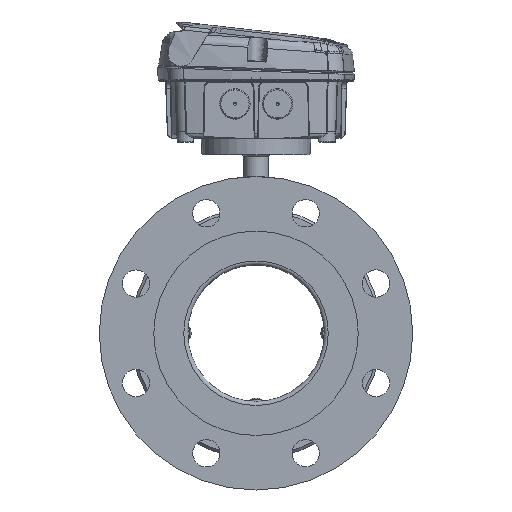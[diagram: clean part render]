
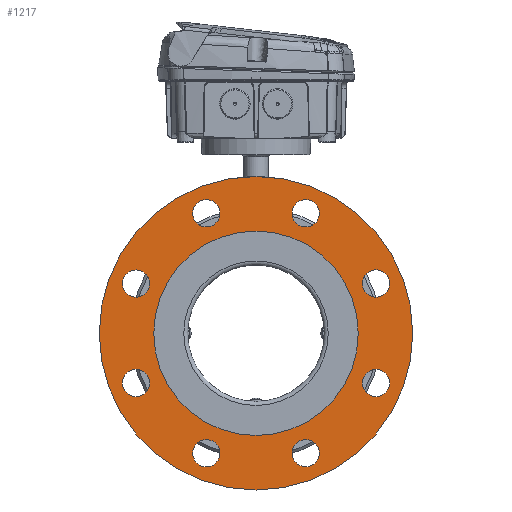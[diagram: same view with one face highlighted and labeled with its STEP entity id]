
A CAD part, left-side view. The second image highlights one B-rep face of the part: STEP entity #1217.
In plain terms, the highlighted planar face has unit normal (-1, 0, 0).
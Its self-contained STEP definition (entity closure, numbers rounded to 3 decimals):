
#262=CARTESIAN_POINT('',(-120.0,80.928,-43.522));
#263=VERTEX_POINT('',#262);
#264=CARTESIAN_POINT('',(-120.0,88.,-36.451));
#265=DIRECTION('',(1.0,0.0,0.0));
#266=DIRECTION('',(0.0,0.707,0.707));
#267=AXIS2_PLACEMENT_3D('',#264,#265,#266);
#268=CIRCLE('',#267,10.0);
#269=EDGE_CURVE('',#263,#263,#268,.T.);
#290=CARTESIAN_POINT('',(-120.0,26.451,-88.));
#291=VERTEX_POINT('',#290);
#292=CARTESIAN_POINT('',(-120.0,36.451,-88.));
#293=DIRECTION('',(1.0,0.0,0.0));
#294=DIRECTION('',(0.0,1.0,0.0));
#295=AXIS2_PLACEMENT_3D('',#292,#293,#294);
#296=CIRCLE('',#295,10.0);
#297=EDGE_CURVE('',#291,#291,#296,.T.);
#318=CARTESIAN_POINT('',(-120.0,-43.522,-80.928));
#319=VERTEX_POINT('',#318);
#320=CARTESIAN_POINT('',(-120.0,-36.451,-88.));
#321=DIRECTION('',(1.0,0.0,0.0));
#322=DIRECTION('',(0.0,0.707,-0.707));
#323=AXIS2_PLACEMENT_3D('',#320,#321,#322);
#324=CIRCLE('',#323,10.0);
#325=EDGE_CURVE('',#319,#319,#324,.T.);
#346=CARTESIAN_POINT('',(-120.0,-88.,-26.451));
#347=VERTEX_POINT('',#346);
#348=CARTESIAN_POINT('',(-120.0,-88.,-36.451));
#349=DIRECTION('',(1.0,0.0,0.0));
#350=DIRECTION('',(0.0,0.0,-1.0));
#351=AXIS2_PLACEMENT_3D('',#348,#349,#350);
#352=CIRCLE('',#351,10.0);
#353=EDGE_CURVE('',#347,#347,#352,.T.);
#374=CARTESIAN_POINT('',(-120.0,-80.928,43.522));
#375=VERTEX_POINT('',#374);
#376=CARTESIAN_POINT('',(-120.0,-88.,36.451));
#377=DIRECTION('',(1.0,0.0,0.0));
#378=DIRECTION('',(0.0,-0.707,-0.707));
#379=AXIS2_PLACEMENT_3D('',#376,#377,#378);
#380=CIRCLE('',#379,10.0);
#381=EDGE_CURVE('',#375,#375,#380,.T.);
#402=CARTESIAN_POINT('',(-120.0,-26.451,88.));
#403=VERTEX_POINT('',#402);
#404=CARTESIAN_POINT('',(-120.0,-36.451,88.));
#405=DIRECTION('',(1.0,0.0,0.0));
#406=DIRECTION('',(0.0,-1.0,0.0));
#407=AXIS2_PLACEMENT_3D('',#404,#405,#406);
#408=CIRCLE('',#407,10.0);
#409=EDGE_CURVE('',#403,#403,#408,.T.);
#430=CARTESIAN_POINT('',(-120.0,43.522,80.928));
#431=VERTEX_POINT('',#430);
#432=CARTESIAN_POINT('',(-120.0,36.451,88.));
#433=DIRECTION('',(1.0,0.0,0.0));
#434=DIRECTION('',(0.0,-0.707,0.707));
#435=AXIS2_PLACEMENT_3D('',#432,#433,#434);
#436=CIRCLE('',#435,10.0);
#437=EDGE_CURVE('',#431,#431,#436,.T.);
#458=CARTESIAN_POINT('',(-120.0,88.,26.451));
#459=VERTEX_POINT('',#458);
#460=CARTESIAN_POINT('',(-120.0,88.,36.451));
#461=DIRECTION('',(1.0,0.0,0.0));
#462=DIRECTION('',(0.0,0.0,1.0));
#463=AXIS2_PLACEMENT_3D('',#460,#461,#462);
#464=CIRCLE('',#463,10.0);
#465=EDGE_CURVE('',#459,#459,#464,.T.);
#1151=CARTESIAN_POINT('',(-120.0,75.,0.0));
#1152=VERTEX_POINT('',#1151);
#1153=CARTESIAN_POINT('',(-120.0,0.0,0.0));
#1154=DIRECTION('',(1.0,0.0,0.0));
#1155=DIRECTION('',(0.0,1.0,0.0));
#1156=AXIS2_PLACEMENT_3D('',#1153,#1154,#1155);
#1157=CIRCLE('',#1156,75.);
#1158=EDGE_CURVE('',#1152,#1152,#1157,.T.);
#1174=CARTESIAN_POINT('',(-120.0,95.0,0.0));
#1175=DIRECTION('',(-1.0,0.0,0.0));
#1176=DIRECTION('',(0.0,0.0,1.0));
#1177=AXIS2_PLACEMENT_3D('',#1174,#1175,#1176);
#1178=PLANE('',#1177);
#1179=CARTESIAN_POINT('',(-120.,115.0,0.0));
#1180=VERTEX_POINT('',#1179);
#1181=CARTESIAN_POINT('',(-120.,0.0,0.0));
#1182=DIRECTION('',(1.0,0.0,0.0));
#1183=DIRECTION('',(0.0,1.0,0.0));
#1184=AXIS2_PLACEMENT_3D('',#1181,#1182,#1183);
#1185=CIRCLE('',#1184,115.0);
#1186=EDGE_CURVE('',#1180,#1180,#1185,.T.);
#1187=ORIENTED_EDGE('',*,*,#1186,.F.);
#1188=EDGE_LOOP('',(#1187));
#1189=FACE_OUTER_BOUND('',#1188,.T.);
#1190=ORIENTED_EDGE('',*,*,#269,.T.);
#1191=EDGE_LOOP('',(#1190));
#1192=FACE_BOUND('',#1191,.T.);
#1193=ORIENTED_EDGE('',*,*,#297,.T.);
#1194=EDGE_LOOP('',(#1193));
#1195=FACE_BOUND('',#1194,.T.);
#1196=ORIENTED_EDGE('',*,*,#325,.T.);
#1197=EDGE_LOOP('',(#1196));
#1198=FACE_BOUND('',#1197,.T.);
#1199=ORIENTED_EDGE('',*,*,#353,.T.);
#1200=EDGE_LOOP('',(#1199));
#1201=FACE_BOUND('',#1200,.T.);
#1202=ORIENTED_EDGE('',*,*,#381,.T.);
#1203=EDGE_LOOP('',(#1202));
#1204=FACE_BOUND('',#1203,.T.);
#1205=ORIENTED_EDGE('',*,*,#409,.T.);
#1206=EDGE_LOOP('',(#1205));
#1207=FACE_BOUND('',#1206,.T.);
#1208=ORIENTED_EDGE('',*,*,#437,.T.);
#1209=EDGE_LOOP('',(#1208));
#1210=FACE_BOUND('',#1209,.T.);
#1211=ORIENTED_EDGE('',*,*,#465,.T.);
#1212=EDGE_LOOP('',(#1211));
#1213=FACE_BOUND('',#1212,.T.);
#1214=ORIENTED_EDGE('',*,*,#1158,.T.);
#1215=EDGE_LOOP('',(#1214));
#1216=FACE_BOUND('',#1215,.T.);
#1217=ADVANCED_FACE('',(#1189,#1192,#1195,#1198,#1201,#1204,#1207,#1210,#1213,#1216),#1178,.T.);
